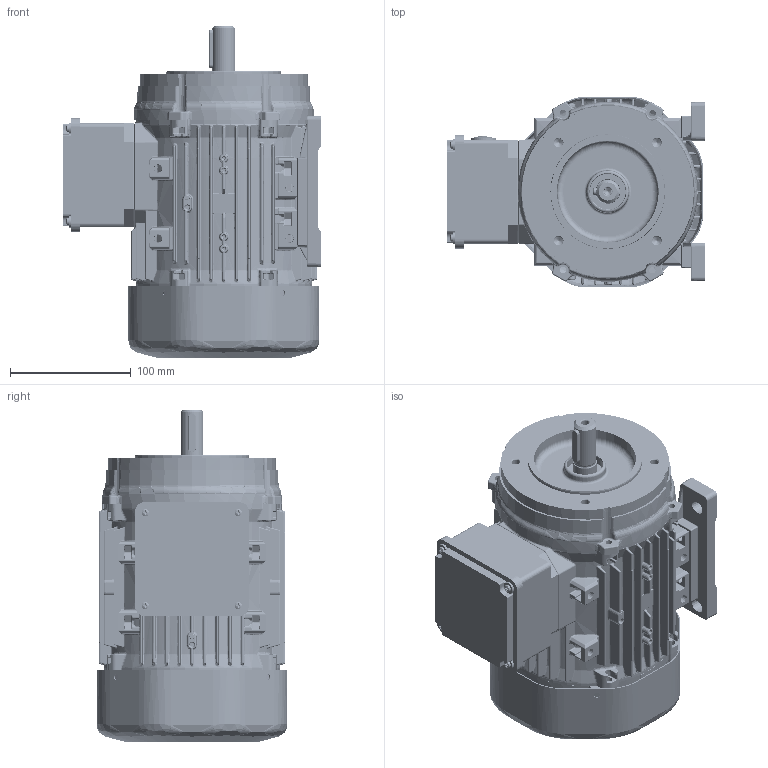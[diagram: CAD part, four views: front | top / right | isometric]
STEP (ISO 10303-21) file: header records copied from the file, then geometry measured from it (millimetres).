
FILE_DESCRIPTION(/* description */ (''),/* implementation_level */ '2;1');
FILE_NAME(/* name */ 'OUTLOOK VIEW QH80 PC B34 - BIGGER FT115 SPL.stp',/* time_stamp */ '2021-09-10T13:28:46+03:00',/* author */ (''),/* organization */ (''),/* preprocessor_version */ 'ST-DEVELOPER v16',/* originating_system */ 'SIEMENS PLM Software NX 11.0',/* authorisation */ '');
FILE_SCHEMA (('AUTOMOTIVE_DESIGN { 1 0 10303 214 3 1 1 1 }'));
Products named in the file (1): 26061960DD717nol
Bounding box: 214.3 x 158 x 275 mm (x, y, z)
Volume: 2447740.8 mm3; surface area: 971722 mm2
Topology: 40 solids, 44 shells, 10361 faces, 25336 edges, 14581 vertices
Faces by surface type: bspline 3145, cylinder 3071, plane 2300, sphere 723, torus 529, cone 510, extrusion 83
Full cylindrical faces by diameter (mm): 0.1 x2, 3.3 x5, 3.985 x3, 4 x4, 4.2 x1, 4.22 x3, 4.5 x4, 5 x4, 5.5 x4, 6 x1, 6.4 x1, 6.6 x1, 6.8 x4, 8 x1, 18.38 x2, 18.4 x1, 19 x3, 19.4 x2, 20 x6, 20.2 x1, 20.5 x1, 25 x2, 28.8 x8, 30 x2, 38.45 x4, 40.59 x8, 47 x5, 47.05 x1, 47.6 x2, 49.5 x2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
Entity records: 415783 total; most frequent: CARTESIAN_POINT 150921, ORIENTED_EDGE 48334, DIRECTION 43641, EDGE_CURVE 24167, AXIS2_PLACEMENT_3D 17948, VERTEX_POINT 14411, EDGE_LOOP 11350, ADVANCED_FACE 10358
